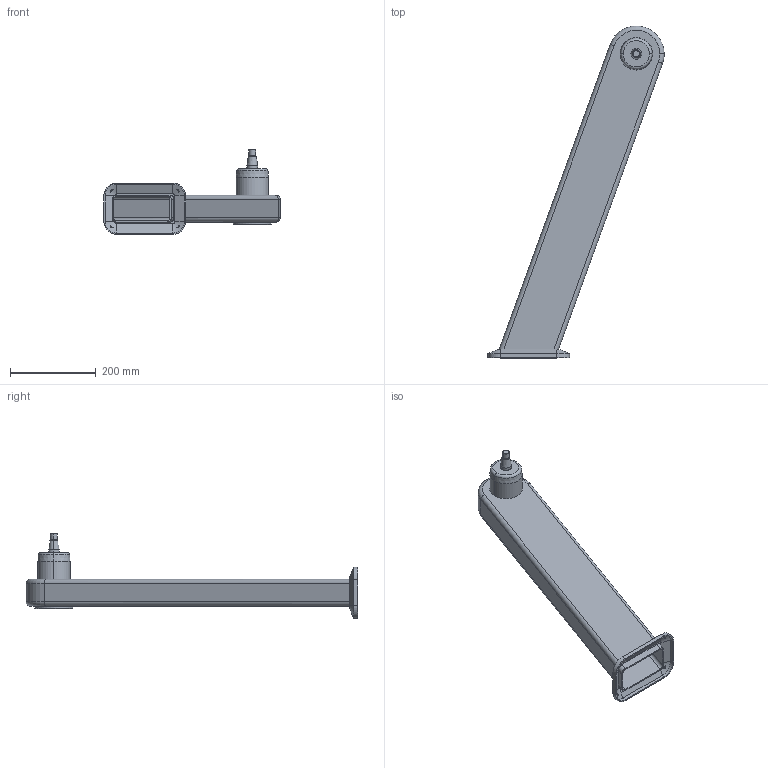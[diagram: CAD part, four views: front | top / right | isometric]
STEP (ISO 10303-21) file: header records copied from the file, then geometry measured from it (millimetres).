
FILE_DESCRIPTION (( 'STEP AP214' ), '1' );
FILE_NAME ('WP710_H710_+20.STEP', '2014-06-27T07:53:46', ( '' ), ( '' ), 'SwSTEP 2.0', 'SolidWorks 2014', '' );
FILE_SCHEMA (( 'AUTOMOTIVE_DESIGN' ));
Length unit declared in the file: millimetre
Products named in the file (1): WP710_H710_+20
Bounding box: 411.64 x 775 x 198 mm (x, y, z)
Volume: 1294873.6 mm3; surface area: 648398.2 mm2
Topology: 1 solids, 1 shells, 114 faces, 259 edges, 158 vertices
Faces by surface type: cylinder 42, plane 40, cone 20, torus 12
Entity records: 3308 total; most frequent: CARTESIAN_POINT 691, DIRECTION 571, ORIENTED_EDGE 518, EDGE_CURVE 259, AXIS2_PLACEMENT_3D 221, VERTEX_POINT 158, VECTOR 129, LINE 129
